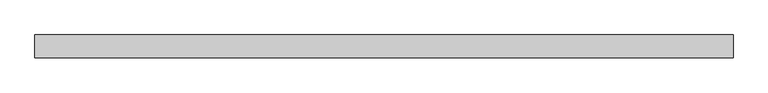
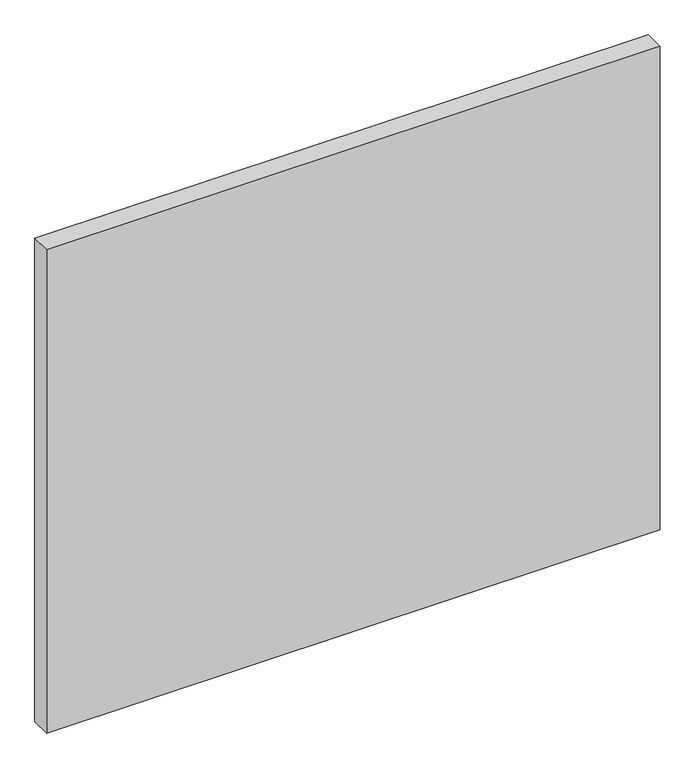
"""IFC4 building model written with IfcOpenShell, lengths in millimetres: plate geometry, Panneau système : Vitré."""

from ifc_helpers import new_model, si_unit, origin, origin_with_axes, place, context, project, spatial, polyline, outline, extrude, source, transform, mapped, element, save


def plate_e04c7937(model_context):
    return source(origin(), model_context, "Body", "SweptSolid", [
        extrude(outline(polyline([(609.9999999, -20.0), (-609.9999999, -20.0), (-609.9999999, 20.0), (609.9999999, 20.0), (609.9999999, -20.0)])), origin_with_axes(), (0.0, 0.0, 1.0), 1015.36452),
    ])


if __name__ == "__main__":
    model = new_model("IFC4")
    model_context = context("Model", 3, world=origin())
    ifc_project = project(units=[si_unit("LENGTHUNIT", "METRE", prefix="MILLI")], contexts=[model_context])
    site = spatial("IfcSite", under=ifc_project)
    building = spatial("IfcBuilding", under=site)
    placement = place(None, origin())
    plate_shape = plate_e04c7937(model_context)
    element("IfcPlate", 1, ObjectType="Panneau système : Vitré", at=placement, inside=building, context=model_context, shape_type="MappedRepresentation", body=[
        mapped(plate_shape, transform((0.0, 0.0, 0.0), x_axis=(1.0, 0.0, 0.0), y_axis=(0.0, 1.0, 0.0), z_axis=(0.0, 0.0, 1.0))),
    ])
    save(model, "model.ifc")
